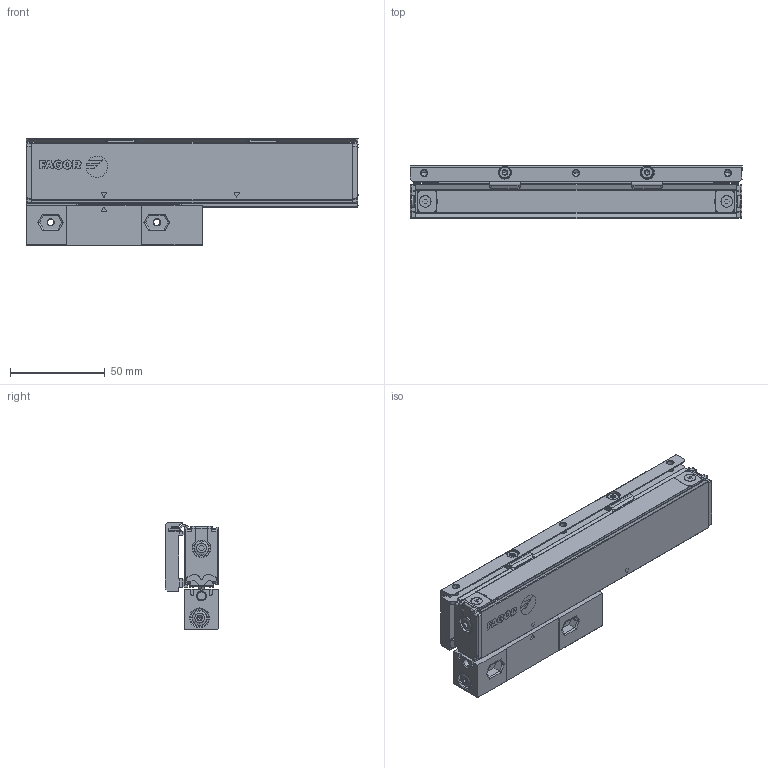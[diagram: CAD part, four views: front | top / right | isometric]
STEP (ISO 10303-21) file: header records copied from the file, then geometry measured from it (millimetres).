
FILE_DESCRIPTION(('Creo Elements/Direct Modeling STEP Export'),'2;1');
FILE_NAME('Regla SV2-70-T-V01A.stp','2022-11-30T 8:28:56',(''),(''),'Creo Elements/Direct Modeling STEP processor for AP214 (Solid Model)','Creo Elements/Direct Modeling 20.4A 18-Oct-2021 (C) Parametric Technology GmbH','');
FILE_SCHEMA(('AUTOMOTIVE_DESIGN { 1 0 10303 214 1 1 1 1 }'));
Length unit declared in the file: millimetre
Products named in the file (4): CABEZA_ROSCADA_REGLA_SV2-T; SOPORTE_SV3-70; REGLA_SV2-T-70; REGLA_SV2-70-T-V01A
Assembly tree (3 placements, depth 2):
  REGLA_SV2-70-T-V01A
    REGLA_SV2-T-70
    SOPORTE_SV3-70
    CABEZA_ROSCADA_REGLA_SV2-T
Bounding box: 175 x 28 x 56.2 mm (x, y, z)
Volume: 164099.3 mm3; surface area: 62304 mm2
Topology: 3 solids, 26 shells, 1351 faces, 3598 edges, 2331 vertices
Faces by surface type: plane 585, cylinder 505, cone 170, bspline 74, torus 10, sphere 4, extrusion 3
Entity records: 49058 total; most frequent: CARTESIAN_POINT 11840, ORIENTED_EDGE 7152, DIRECTION 6183, EDGE_CURVE 3576, VERTEX_POINT 2331, AXIS2_PLACEMENT_3D 2096, VECTOR 1991, LINE 1988
